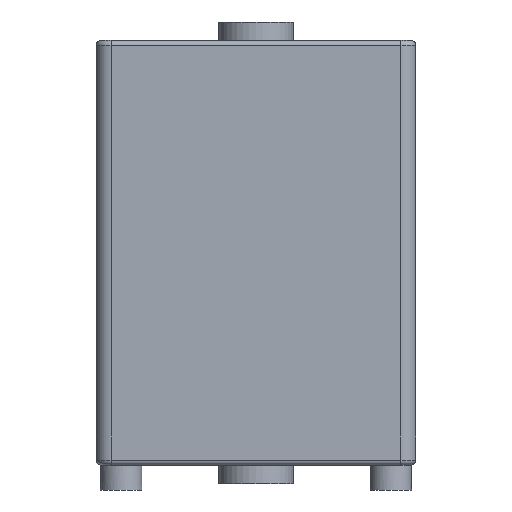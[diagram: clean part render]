
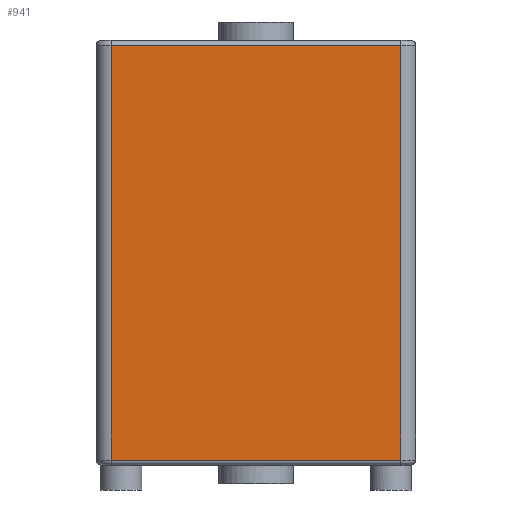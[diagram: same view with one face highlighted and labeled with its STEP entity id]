
A CAD part, front view. The second image highlights one B-rep face of the part: STEP entity #941.
In plain terms, the highlighted planar face has unit normal (0, -1, 0).
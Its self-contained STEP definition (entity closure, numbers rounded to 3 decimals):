
#70=LINE('',#1702,#116);
#81=LINE('',#1736,#127);
#82=LINE('',#1739,#128);
#83=LINE('',#1740,#129);
#116=VECTOR('',#1356,10.);
#127=VECTOR('',#1395,10.);
#128=VECTOR('',#1398,10.);
#129=VECTOR('',#1399,10.);
#207=FACE_OUTER_BOUND('',#275,.T.);
#275=EDGE_LOOP('',(#808,#809,#810,#811));
#447=VERTEX_POINT('',#1697);
#448=VERTEX_POINT('',#1701);
#457=VERTEX_POINT('',#1734);
#458=VERTEX_POINT('',#1738);
#562=EDGE_CURVE('',#447,#448,#70,.T.);
#582=EDGE_CURVE('',#448,#457,#81,.T.);
#583=EDGE_CURVE('',#457,#458,#82,.T.);
#584=EDGE_CURVE('',#458,#447,#83,.T.);
#808=ORIENTED_EDGE('',*,*,#583,.F.);
#809=ORIENTED_EDGE('',*,*,#582,.F.);
#810=ORIENTED_EDGE('',*,*,#562,.F.);
#811=ORIENTED_EDGE('',*,*,#584,.F.);
#892=PLANE('',#1094);
#941=ADVANCED_FACE('',(#207),#892,.T.);
#1094=AXIS2_PLACEMENT_3D('',#1737,#1396,#1397);
#1356=DIRECTION('',(1.,0.,0.));
#1395=DIRECTION('',(0.,0.,-1.));
#1396=DIRECTION('center_axis',(0.,-1.,0.));
#1397=DIRECTION('ref_axis',(-1.,0.,0.));
#1398=DIRECTION('',(-1.,0.,0.));
#1399=DIRECTION('',(0.,0.,1.));
#1697=CARTESIAN_POINT('',(-29.,-96.5,-1.));
#1701=CARTESIAN_POINT('',(29.,-96.5,-1.));
#1702=CARTESIAN_POINT('',(16.,-96.5,-1.));
#1734=CARTESIAN_POINT('',(29.,-96.5,-84.));
#1736=CARTESIAN_POINT('',(29.,-96.5,0.));
#1737=CARTESIAN_POINT('Origin',(32.,-96.5,0.));
#1738=CARTESIAN_POINT('',(-29.,-96.5,-84.));
#1739=CARTESIAN_POINT('',(16.,-96.5,-84.));
#1740=CARTESIAN_POINT('',(-29.,-96.5,0.));
